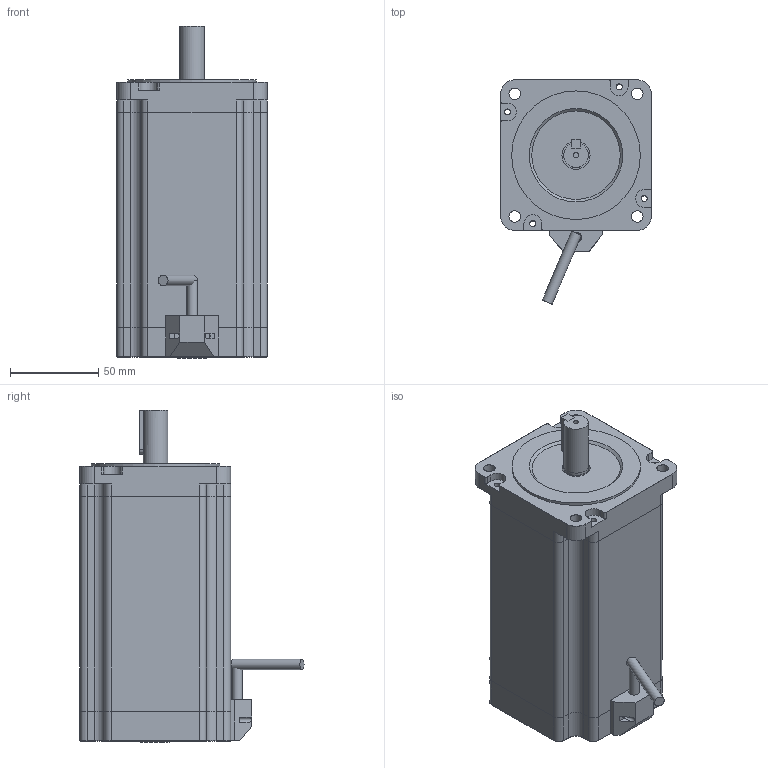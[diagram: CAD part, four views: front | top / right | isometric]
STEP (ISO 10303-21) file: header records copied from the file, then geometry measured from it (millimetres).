
FILE_DESCRIPTION(/* description */ (''),/* implementation_level */ '2;1');
FILE_NAME(/* name */ 'MP3-86H156.stp',/* time_stamp */ '2023-10-23T10:47:29+08:00',/* author */ (''),/* organization */ (''),/* preprocessor_version */ 'ST-DEVELOPER v16.7',/* originating_system */ 'SIEMENS PLM Software NX 12.0',/* authorisation */ '');
FILE_SCHEMA (('AUTOMOTIVE_DESIGN { 1 0 10303 214 3 1 1 1 }'));
Length unit declared in the file: millimetre
Products named in the file (1): MP3-86H156
Bounding box: 85.5 x 127.21 x 188.5 mm (x, y, z)
Volume: 1035361.4 mm3; surface area: 127879.4 mm2
Topology: 13 solids, 13 shells, 251 faces, 647 edges, 428 vertices
Faces by surface type: plane 119, cylinder 119, torus 12, cone 1
Full cylindrical faces by diameter (mm): 3 x4, 3.4 x12, 6 x2, 6.5 x8, 14 x5, 16 x3, 16.4 x1, 16.6 x1, 73 x1
Entity records: 7589 total; most frequent: DIRECTION 1348, CARTESIAN_POINT 1285, ORIENTED_EDGE 1184, EDGE_CURVE 592, AXIS2_PLACEMENT_3D 505, VERTEX_POINT 411, EDGE_LOOP 345, LINE 338
